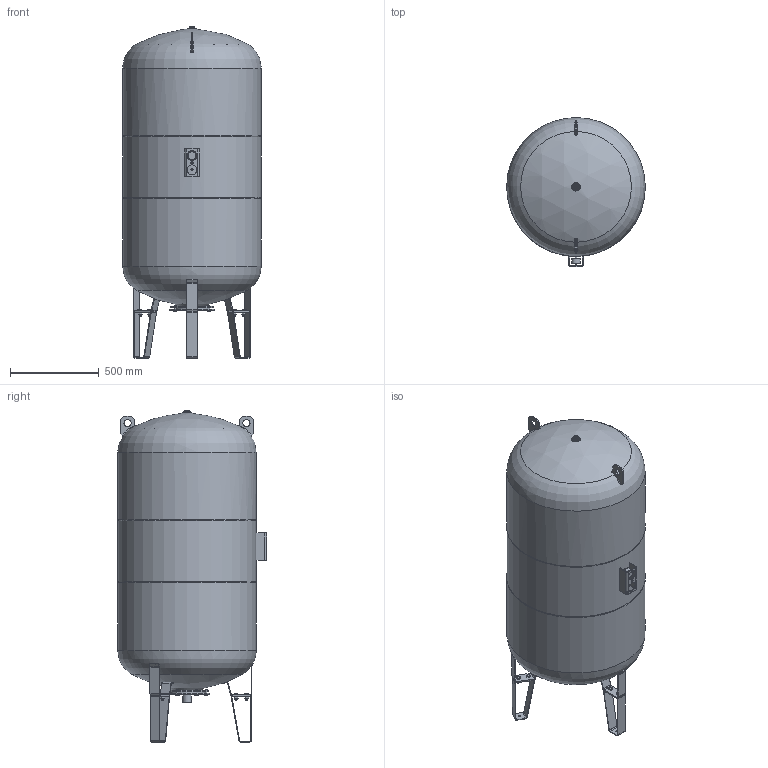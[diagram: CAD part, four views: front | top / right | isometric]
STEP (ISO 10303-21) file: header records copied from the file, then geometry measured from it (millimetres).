
FILE_DESCRIPTION(('STEP AP214'), '1');
FILE_NAME('WRV-750', '', ('UNSPECIFIED'), ('UNSPECIFIED'), 'ASCON STEP Converter 1.3', 'ASCON Math Kernel', '');
FILE_SCHEMA(('AUTOMOTIVE_DESIGN { 1 0 10303 214 3 1 1}'));
Length unit declared in the file: millimetre
Bounding box: 781.25 x 839.48 x 1869.82 mm (x, y, z)
Surface area: 4740413 mm2 (no closed solid volume)
Topology: 0 solids, 5 shells, 782 faces, 2152 edges, 1414 vertices
Faces by surface type: plane 351, cylinder 199, cone 144, torus 42, sphere 24, bspline 22
Full cylindrical faces by diameter (mm): 3 x1, 4 x1, 4.3 x1, 5.5 x1, 6 x1, 6.5 x1, 8 x3, 8.5 x1, 12 x19, 13 x6, 13.585 x1, 14 x3, 18.6 x1, 24 x7, 26.4 x1, 38.531 x1, 38.952 x1, 40 x2, 47 x1, 48 x1, 49 x1, 50 x1, 55 x2, 179 x1, 200 x1, 240 x1, 250 x1, 780 x2
Entity records: 61578 total; most frequent: CARTESIAN_POINT 36063, ORIENTED_EDGE 4000, DIRECTION 3875, EDGE_CURVE 2016, AXIS2_PLACEMENT_3D 1580, VERTEX_POINT 1408, EDGE_LOOP 1012, FACE_BOUND 978
